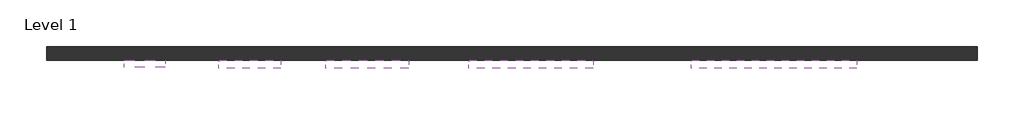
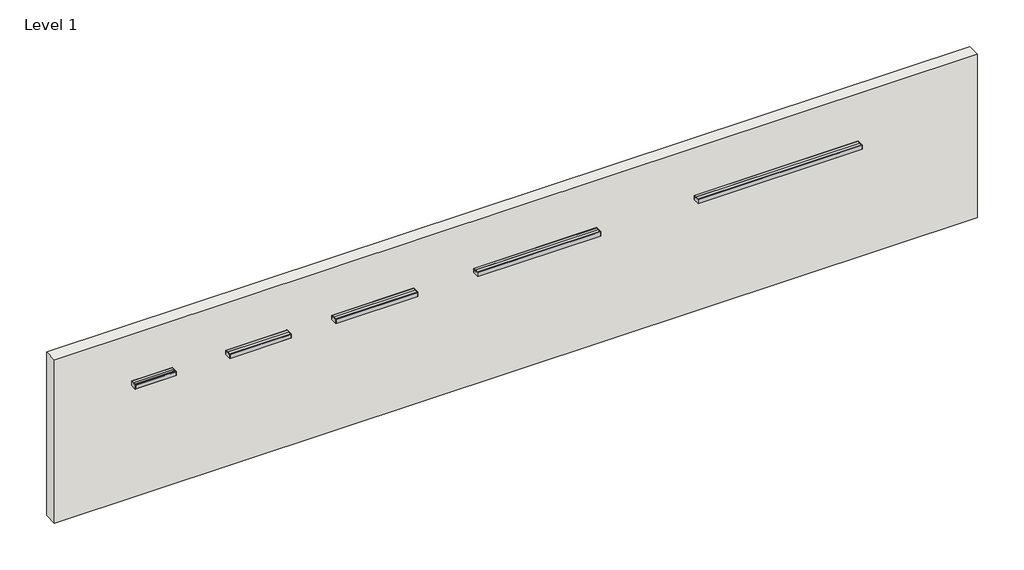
# One storey: 5 light fixtures, 1 wall.
"""IFC4 building model written with IfcOpenShell, lengths in millimetres."""

from ifc_helpers import new_model, si_unit, origin, origin_with_axes, place, context, project, spatial, polyline, outline, extrude, transform, mapped, element, save
from components import inter_lux_box_cove_2_linear_36a48e66, inter_lux_box_cove_2_linear_443eb57c, inter_lux_box_cove_2_linear_e77879a3, inter_lux_box_cove_2_linear_d6b674f3, inter_lux_box_cove_2_linear_5ed94e75

model = new_model("IFC4")

# Units and contexts
model_context = context("Model", 3, world=origin())
ifc_project = project(units=[si_unit("LENGTHUNIT", "METRE", prefix="MILLI")], contexts=[model_context])

# Site, building, storey
site = spatial("IfcSite", under=ifc_project)
building = spatial("IfcBuilding", under=site)
storey = spatial("IfcBuildingStorey", under=building, Name="Level 1", Elevation=0.0)

# Light fixtures
placement = place(None, origin())
inter_lux_box_cove_2_linear_shape = inter_lux_box_cove_2_linear_36a48e66(model_context)
element("IfcLightFixture", 1, ObjectType="Inter_Lux-Box_Cove_2-Linear : WG-BC2-36", at=placement, inside=storey, context=model_context, shape_type="MappedRepresentation", body=[
    mapped(inter_lux_box_cove_2_linear_shape, transform((4328.2499264, 3288.5338637, 1801.7451135), x_axis=(1.0, 0.0, 0.0), y_axis=(0.0, 0.0, 1.0), z_axis=(0.0, -1.0, 0.0))),
])
inter_lux_box_cove_2_linear_2_shape = inter_lux_box_cove_2_linear_443eb57c(model_context)
element("IfcLightFixture", 2, ObjectType="Inter_Lux-Box_Cove_2-Linear : WG-BC2-48", at=placement, inside=storey, context=model_context, shape_type="MappedRepresentation", body=[
    mapped(inter_lux_box_cove_2_linear_2_shape, transform((6055.4499264, 3288.5338637, 1801.7451135), x_axis=(1.0, 0.0, 0.0), y_axis=(0.0, 0.0, 1.0), z_axis=(0.0, -1.0, 0.0))),
])
inter_lux_box_cove_2_linear_3_shape = inter_lux_box_cove_2_linear_e77879a3(model_context)
element("IfcLightFixture", 3, ObjectType="Inter_Lux-Box_Cove_2-Linear : WG-BC2-72", at=placement, inside=storey, context=model_context, shape_type="MappedRepresentation", body=[
    mapped(inter_lux_box_cove_2_linear_3_shape, transform((8468.4499264, 3288.5338637, 1801.7451135), x_axis=(1.0, 0.0, 0.0), y_axis=(0.0, 0.0, 1.0), z_axis=(0.0, -1.0, 0.0))),
])
inter_lux_box_cove_2_linear_4_shape = inter_lux_box_cove_2_linear_d6b674f3(model_context)
element("IfcLightFixture", 4, ObjectType="Inter_Lux-Box_Cove_2-Linear : WG-BC2-96", at=placement, inside=storey, context=model_context, shape_type="MappedRepresentation", body=[
    mapped(inter_lux_box_cove_2_linear_4_shape, transform((12049.8499264, 3288.5338637, 1801.7451135), x_axis=(1.0, 0.0, 0.0), y_axis=(0.0, 0.0, 1.0), z_axis=(0.0, -1.0, 0.0))),
])
inter_lux_box_cove_2_linear_5_shape = inter_lux_box_cove_2_linear_5ed94e75(model_context)
element("IfcLightFixture", 5, ObjectType="Inter_Lux-Box_Cove_2-Linear : WG-BC2-24", at=placement, inside=storey, context=model_context, shape_type="MappedRepresentation", body=[
    mapped(inter_lux_box_cove_2_linear_5_shape, transform((2778.8499264, 3288.5338637, 1801.7451135), x_axis=(1.0, 0.0, 0.0), y_axis=(0.0, 0.0, 1.0), z_axis=(0.0, -1.0, 0.0))),
])

# Wall
element("IfcWall", 6, ObjectType="Wall 1", at=placement, inside=storey, context=model_context, shape_type="SweptSolid", body=[
    extrude(outline(polyline([(15047.0499264, 3288.5338637), (1331.0499264, 3288.5338637), (1331.0499264, 3491.7338637), (15047.0499264, 3491.7338637), (15047.0499264, 3288.5338637)])), origin_with_axes(), (0.0, 0.0, 1.0), 2569.1110528),
])

save(model, "model.ifc")
